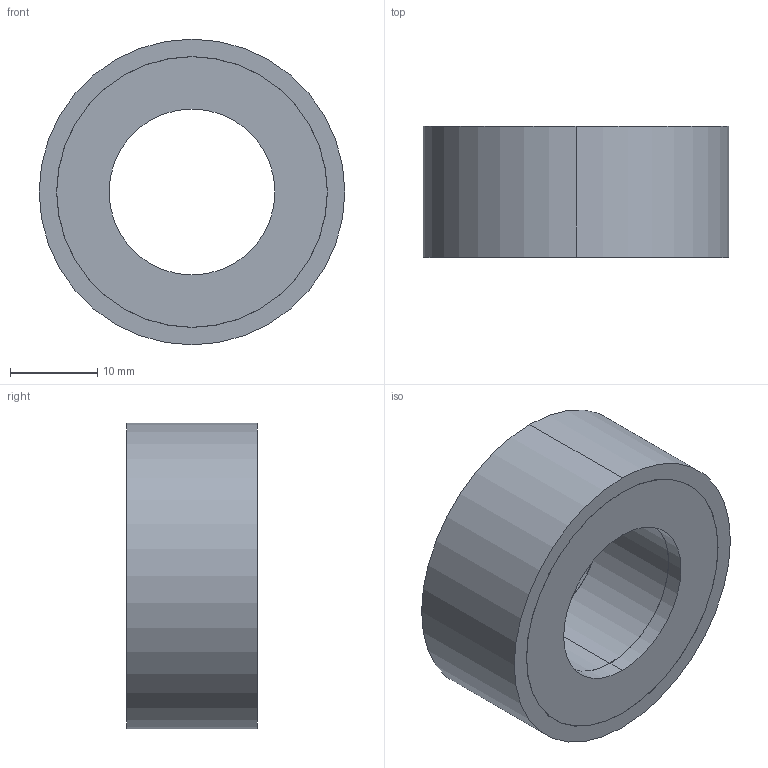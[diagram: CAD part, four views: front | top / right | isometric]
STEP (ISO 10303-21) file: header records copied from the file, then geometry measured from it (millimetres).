
FILE_DESCRIPTION (( 'STEP AP214' ), '1' );
FILE_NAME ('351-35-15-19-DD-40.step', '2025-07-23T10:14:14', ( '' ), ( '' ), 'SwSTEP 2.0', 'SolidWorks 2022', '' );
FILE_SCHEMA (( 'AUTOMOTIVE_DESIGN' ));
Length unit declared in the file: millimetre
Products named in the file (1): 351-35-15-19-DD-40
Bounding box: 35 x 15 x 35 mm (x, y, z)
Volume: 10178.7 mm3; surface area: 3908.1 mm2
Topology: 1 solids, 1 shells, 30 faces, 60 edges, 40 vertices
Faces by surface type: cylinder 20, plane 10
Entity records: 919 total; most frequent: DIRECTION 162, CARTESIAN_POINT 131, ORIENTED_EDGE 120, AXIS2_PLACEMENT_3D 71, EDGE_CURVE 60, EDGE_LOOP 40, CIRCLE 40, VERTEX_POINT 40
